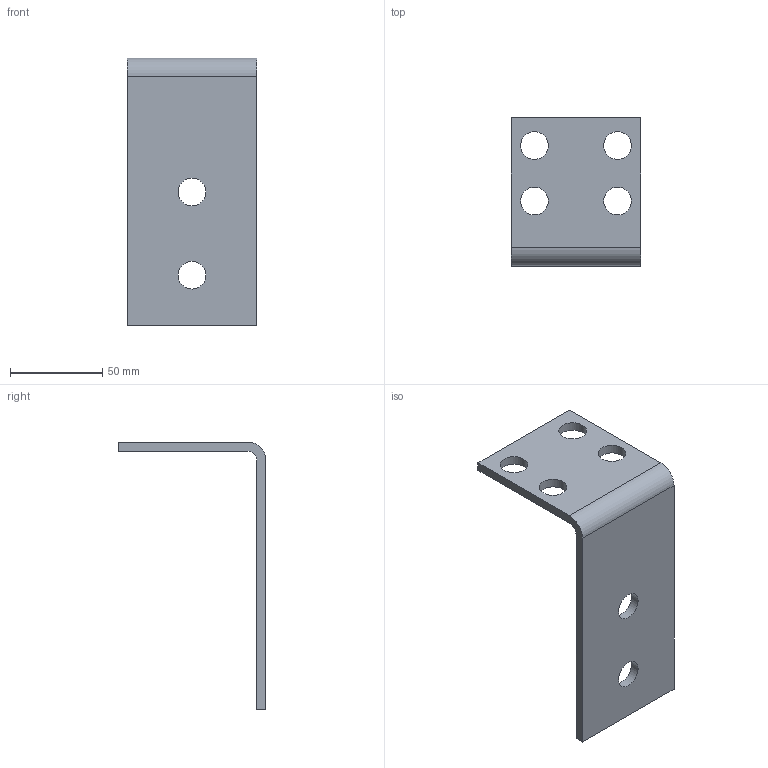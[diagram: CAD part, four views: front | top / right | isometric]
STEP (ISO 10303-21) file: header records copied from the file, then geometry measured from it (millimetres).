
FILE_DESCRIPTION(/* description */ (''),/* implementation_level */ '2;1');
FILE_NAME(/* name */ '2020TOMO-TELAIO-ASSY.00_v12-Part_14.stp',/* time_stamp */ '2022-05-16T13:37:55+02:00',/* author */ (''),/* organization */ (''),/* preprocessor_version */ 'ST-DEVELOPER v18.102',/* originating_system */ 'SIEMENS PLM Software NX 2000',/* authorisation */ '');
FILE_SCHEMA (('AUTOMOTIVE_DESIGN { 1 0 10303 214 3 1 1 1 }'));
Length unit declared in the file: millimetre
Products named in the file (1): turc3144724Fyy8d
Bounding box: 70 x 80 x 145 mm (x, y, z)
Volume: 70571.9 mm3; surface area: 32510.3 mm2
Topology: 1 solids, 1 shells, 16 faces, 48 edges, 34 vertices
Faces by surface type: cylinder 8, plane 8
Full cylindrical faces by diameter (mm): 15 x6
Entity records: 528 total; most frequent: DIRECTION 86, CARTESIAN_POINT 81, ORIENTED_EDGE 72, EDGE_CURVE 36, EDGE_LOOP 34, AXIS2_PLACEMENT_3D 33, FACE_BOUND 28, VERTEX_POINT 28
